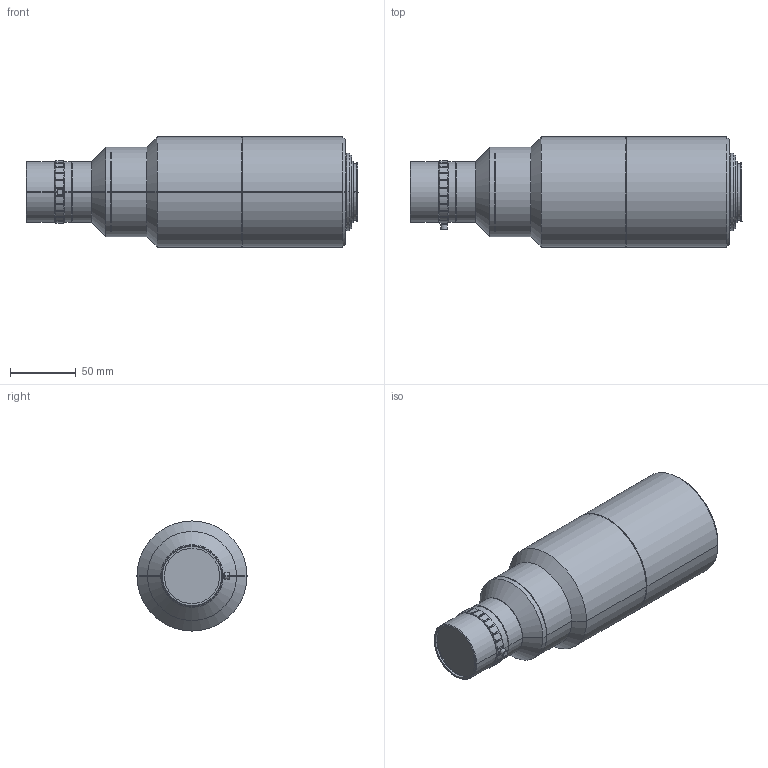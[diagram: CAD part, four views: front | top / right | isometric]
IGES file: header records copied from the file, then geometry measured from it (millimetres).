
Start section: SolidWorks IGES file using analytic representation for surfaces
Global section: file name: \\192.168.200.11\Development\03 ラインセンサーレンズ\04 VS-LTC series\330 VS-LTC3.3-45_FS\作成中_3D\VS-LTC3.3-45_FS.IGS; native system: SolidWorks 2014; preprocessor: SolidWorks 2014; author: miura_vst; date: 140922.154926; units: millimetre
Bounding box: 253.26 x 84 x 84 mm (x, y, z)
Surface area: 70488.1 mm2 (no closed solid volume)
Topology: 0 solids, 0 shells, 217 faces, 3308 edges, 3306 vertices
Faces by surface type: revolution 125, bspline 92
